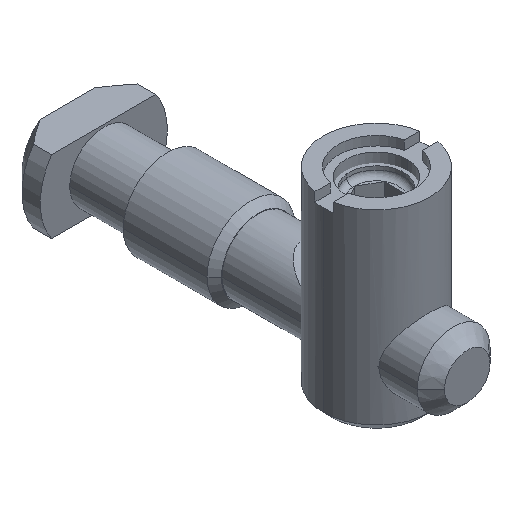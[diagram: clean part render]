
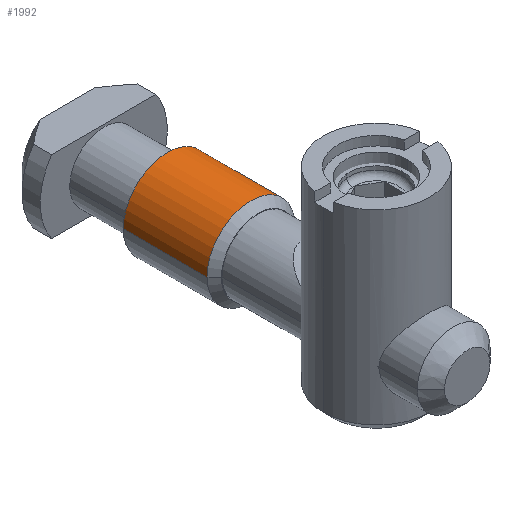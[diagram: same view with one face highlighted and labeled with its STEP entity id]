
A CAD part, isometric view. The second image highlights one B-rep face of the part: STEP entity #1992.
In plain terms, the highlighted cylindrical face has radius 4.85 mm (diameter 9.7 mm), a partial arc.
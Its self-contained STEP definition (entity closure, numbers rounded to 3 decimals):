
#61 = EDGE_CURVE ( 'NONE', #610, #585, #1221, .T. ) ;
#119 = AXIS2_PLACEMENT_3D ( 'NONE', #552, #1715, #1687 ) ;
#172 = ORIENTED_EDGE ( 'NONE', *, *, #1895, .F. ) ;
#176 = VERTEX_POINT ( 'NONE', #777 ) ;
#207 = DIRECTION ( 'NONE',  ( 0., 0., 1. ) ) ;
#301 = EDGE_CURVE ( 'NONE', #176, #585, #1194, .T. ) ;
#342 = VECTOR ( 'NONE', #1884, 1000. ) ;
#344 = CARTESIAN_POINT ( 'NONE',  ( -10., 0., 4.85 ) ) ;
#405 = EDGE_LOOP ( 'NONE', ( #172, #1682, #890, #1018 ) ) ;
#508 = AXIS2_PLACEMENT_3D ( 'NONE', #1253, #1239, #207 ) ;
#552 = CARTESIAN_POINT ( 'NONE',  ( -10., 0., 0. ) ) ;
#585 = VERTEX_POINT ( 'NONE', #1752 ) ;
#610 = VERTEX_POINT ( 'NONE', #1653 ) ;
#673 = EDGE_CURVE ( 'NONE', #1532, #176, #1987, .T. ) ;
#743 = CARTESIAN_POINT ( 'NONE',  ( -10., 0., 4.85 ) ) ;
#765 = DIRECTION ( 'NONE',  ( -1., 0., 0. ) ) ;
#777 = CARTESIAN_POINT ( 'NONE',  ( -0.8, 0., 4.85 ) ) ;
#890 = ORIENTED_EDGE ( 'NONE', *, *, #301, .T. ) ;
#1014 = AXIS2_PLACEMENT_3D ( 'NONE', #2110, #765, #1428 ) ;
#1018 = ORIENTED_EDGE ( 'NONE', *, *, #61, .F. ) ;
#1194 = CIRCLE ( 'NONE', #508, 4.85 ) ;
#1221 = LINE ( 'NONE', #1932, #342 ) ;
#1239 = DIRECTION ( 'NONE',  ( -1., 0., 0. ) ) ;
#1253 = CARTESIAN_POINT ( 'NONE',  ( -0.8, 0., 0. ) ) ;
#1262 = CIRCLE ( 'NONE', #1014, 4.85 ) ;
#1274 = VECTOR ( 'NONE', #1953, 1000. ) ;
#1428 = DIRECTION ( 'NONE',  ( 0., 0., 1. ) ) ;
#1532 = VERTEX_POINT ( 'NONE', #344 ) ;
#1653 = CARTESIAN_POINT ( 'NONE',  ( -10., 0., -4.85 ) ) ;
#1682 = ORIENTED_EDGE ( 'NONE', *, *, #673, .T. ) ;
#1687 = DIRECTION ( 'NONE',  ( 0., 0., -1. ) ) ;
#1715 = DIRECTION ( 'NONE',  ( 1., 0., 0. ) ) ;
#1752 = CARTESIAN_POINT ( 'NONE',  ( -0.8, 0., -4.85 ) ) ;
#1884 = DIRECTION ( 'NONE',  ( 1., 0., 0. ) ) ;
#1895 = EDGE_CURVE ( 'NONE', #1532, #610, #1262, .T. ) ;
#1932 = CARTESIAN_POINT ( 'NONE',  ( -10., 0., -4.85 ) ) ;
#1948 = CYLINDRICAL_SURFACE ( 'NONE', #119, 4.85 ) ;
#1953 = DIRECTION ( 'NONE',  ( 1., 0., 0. ) ) ;
#1987 = LINE ( 'NONE', #743, #1274 ) ;
#1992 = ADVANCED_FACE ( 'NONE', ( #2120 ), #1948, .T. ) ;
#2110 = CARTESIAN_POINT ( 'NONE',  ( -10., 0., 0. ) ) ;
#2120 = FACE_OUTER_BOUND ( 'NONE', #405, .T. ) ;
